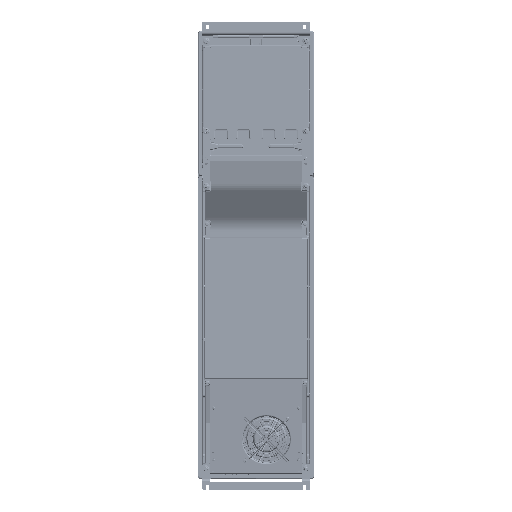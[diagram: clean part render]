
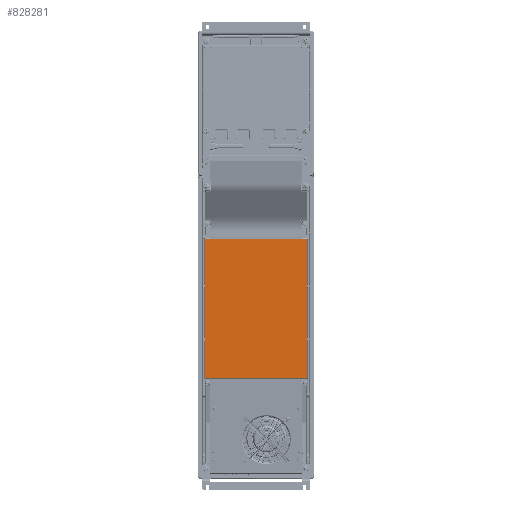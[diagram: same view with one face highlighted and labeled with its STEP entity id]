
A CAD part, front view. The second image highlights one B-rep face of the part: STEP entity #828281.
In plain terms, the highlighted planar face has unit normal (0, -1, 0).
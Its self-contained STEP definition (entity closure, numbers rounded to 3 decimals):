
#827065=CARTESIAN_POINT('',(-121.,-98.5,-384.56));
#827066=DIRECTION('',(0.,-1.,0.));
#827067=DIRECTION('',(-1.,0.,0.));
#827068=AXIS2_PLACEMENT_3D('',#827065,#827066,#827067);
#827070=DIRECTION('',(1.,0.,0.));
#827071=VECTOR('',#827070,242.);
#827072=CARTESIAN_POINT('',(-121.,-98.5,-385.56));
#827073=LINE('',#827072,#827071);
#827074=CARTESIAN_POINT('',(121.,-98.5,-384.56));
#827075=DIRECTION('',(0.,-1.,0.));
#827076=DIRECTION('',(0.,0.,-1.));
#827077=AXIS2_PLACEMENT_3D('',#827074,#827075,#827076);
#827079=DIRECTION('',(-1.,0.,0.));
#827080=VECTOR('',#827079,13.);
#827081=CARTESIAN_POINT('',(135.,-98.5,-384.56));
#827082=LINE('',#827081,#827080);
#827083=DIRECTION('',(0.,0.,-1.));
#827084=VECTOR('',#827083,369.22);
#827085=CARTESIAN_POINT('',(135.,-98.5,-384.56));
#827086=LINE('',#827085,#827084);
#827087=DIRECTION('',(1.,0.,0.));
#827088=VECTOR('',#827087,270.);
#827089=CARTESIAN_POINT('',(-135.,-98.5,-753.78));
#827090=LINE('',#827089,#827088);
#827091=DIRECTION('',(0.,0.,1.));
#827092=VECTOR('',#827091,369.22);
#827093=CARTESIAN_POINT('',(-135.,-98.5,-753.78));
#827094=LINE('',#827093,#827092);
#827095=DIRECTION('',(1.,0.,0.));
#827096=VECTOR('',#827095,13.);
#827097=CARTESIAN_POINT('',(-135.,-98.5,-384.56));
#827098=LINE('',#827097,#827096);
#827946=CARTESIAN_POINT('',(-135.,-98.5,-753.78));
#827947=CARTESIAN_POINT('',(135.,-98.5,-753.78));
#827948=VERTEX_POINT('',#827946);
#827949=VERTEX_POINT('',#827947);
#828010=CARTESIAN_POINT('',(135.,-98.5,-384.56));
#828011=VERTEX_POINT('',#828010);
#828028=CARTESIAN_POINT('',(-135.,-98.5,-384.56));
#828030=VERTEX_POINT('',#828028);
#828153=CARTESIAN_POINT('',(121.,-98.5,-385.56));
#828155=VERTEX_POINT('',#828153);
#828157=CARTESIAN_POINT('',(122.,-98.5,-384.56));
#828159=VERTEX_POINT('',#828157);
#828160=CARTESIAN_POINT('',(-121.,-98.5,-385.56));
#828162=VERTEX_POINT('',#828160);
#828164=CARTESIAN_POINT('',(-122.,-98.5,-384.56));
#828166=VERTEX_POINT('',#828164);
#828258=CARTESIAN_POINT('',(-135.,-98.5,-385.56));
#828259=DIRECTION('',(0.,-1.,0.));
#828260=DIRECTION('',(0.,0.,-1.));
#828261=AXIS2_PLACEMENT_3D('',#828258,#828259,#828260);
#828262=PLANE('',#828261);
#828264=ORIENTED_EDGE('',*,*,#828263,.T.);
#828266=ORIENTED_EDGE('',*,*,#828265,.T.);
#828268=ORIENTED_EDGE('',*,*,#828267,.T.);
#828270=ORIENTED_EDGE('',*,*,#828269,.T.);
#828272=ORIENTED_EDGE('',*,*,#828271,.F.);
#828274=ORIENTED_EDGE('',*,*,#828273,.T.);
#828276=ORIENTED_EDGE('',*,*,#828275,.F.);
#828278=ORIENTED_EDGE('',*,*,#828277,.T.);
#828279=EDGE_LOOP('',(#828264,#828266,#828268,#828270,#828272,#828274,#828276,
#828278));
#828280=FACE_OUTER_BOUND('',#828279,.F.);
#828281=ADVANCED_FACE('',(#828280),#828262,.T.);
#827069=CIRCLE('',#827068,1.);
#827078=CIRCLE('',#827077,1.);
#828263=EDGE_CURVE('',#828030,#828166,#827098,.T.);
#828265=EDGE_CURVE('',#828166,#828162,#827069,.T.);
#828267=EDGE_CURVE('',#828162,#828155,#827073,.T.);
#828269=EDGE_CURVE('',#828155,#828159,#827078,.T.);
#828271=EDGE_CURVE('',#828011,#828159,#827082,.T.);
#828273=EDGE_CURVE('',#828011,#827949,#827086,.T.);
#828275=EDGE_CURVE('',#827948,#827949,#827090,.T.);
#828277=EDGE_CURVE('',#827948,#828030,#827094,.T.);
